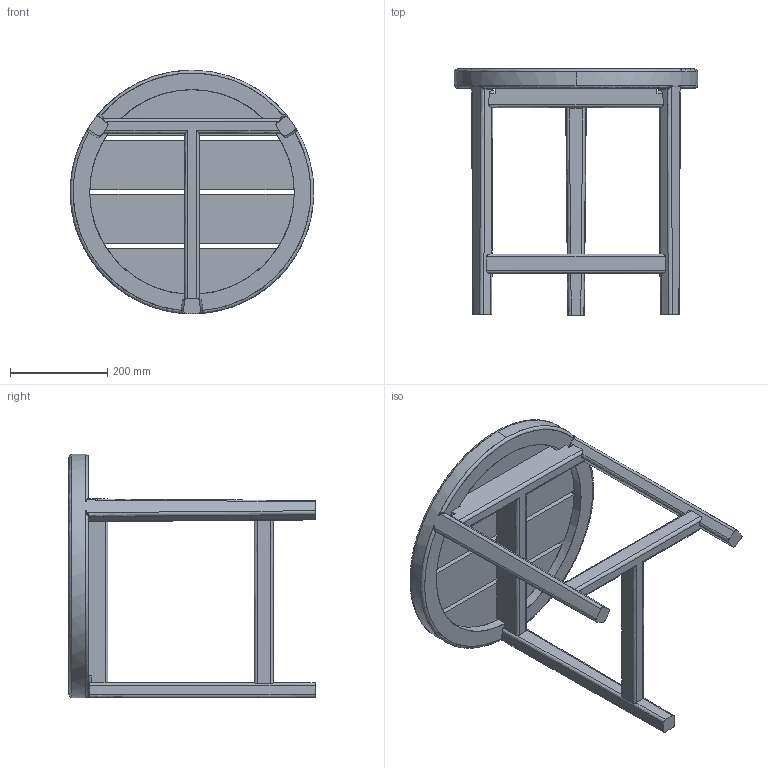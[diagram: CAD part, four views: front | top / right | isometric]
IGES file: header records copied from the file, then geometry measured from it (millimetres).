
Start section: SolidWorks IGES file using analytic representation for surfaces
Global section: file name: C:\Users\Utilizador\Desktop\Outdoor Files\578 Outdoor Side Table\3D IGS\578 Outdoor Side Table_3D IGS.IGS; native system: SolidWorks 2016; preprocessor: SolidWorks 2016; author: Utilizador; date: 220124.161347; units: millimetre
Bounding box: 500 x 505 x 500 mm (x, y, z)
Surface area: 848702.3 mm2 (no closed solid volume)
Topology: 0 solids, 0 shells, 199 faces, 3218 edges, 3218 vertices
Faces by surface type: bspline 136, revolution 63
